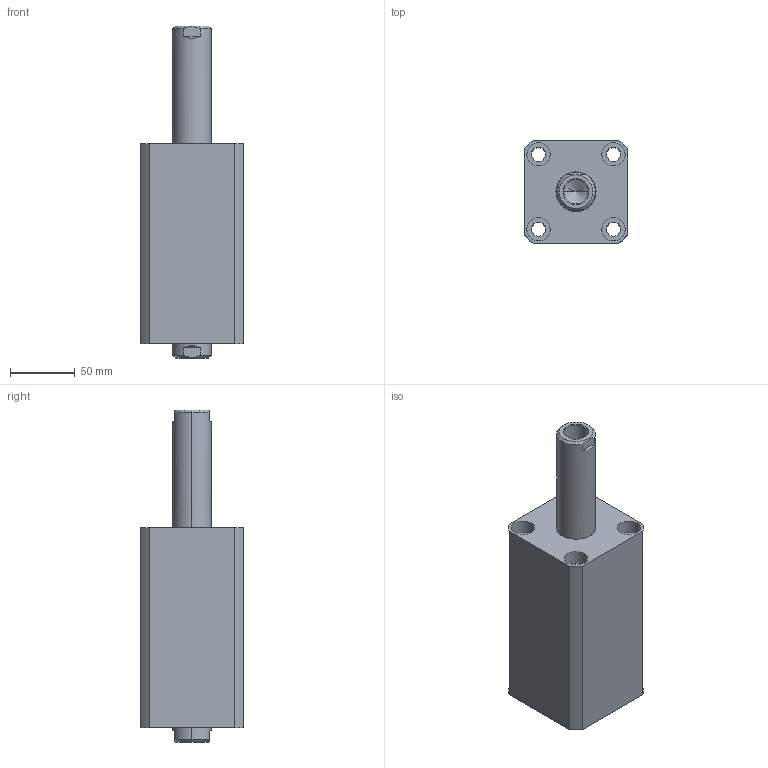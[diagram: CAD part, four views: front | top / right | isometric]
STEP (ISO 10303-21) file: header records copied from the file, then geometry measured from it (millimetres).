
FILE_DESCRIPTION (( 'STEP AP203' ), '1' );
FILE_NAME ('CHTB-SW50-80N.STEP', '2018-05-21T07:13:49', ( '' ), ( '' ), 'SwSTEP 2.0', 'SolidWorks 2015', '' );
FILE_SCHEMA (( 'CONFIG_CONTROL_DESIGN' ));
Length unit declared in the file: millimetre
Products named in the file (4): 掛极SW50-80N; CHTB-SW50-80N; ヶ裔; 活塞杆SW50-80N
Assembly tree (3 placements, depth 2):
  CHTB-SW50-80N
    掛极SW50-80N
    活塞杆SW50-80N
    ヶ裔
Bounding box: 80 x 80 x 257 mm (x, y, z)
Volume: 850508.8 mm3; surface area: 155207.3 mm2
Topology: 3 solids, 3 shells, 225 faces, 528 edges, 331 vertices
Faces by surface type: cylinder 118, plane 46, cone 33, torus 24, bspline 4
Entity records: 9698 total; most frequent: CARTESIAN_POINT 4235, DIRECTION 1104, ORIENTED_EDGE 1040, EDGE_CURVE 520, AXIS2_PLACEMENT_3D 462, VERTEX_POINT 331, EDGE_LOOP 271, CIRCLE 235
